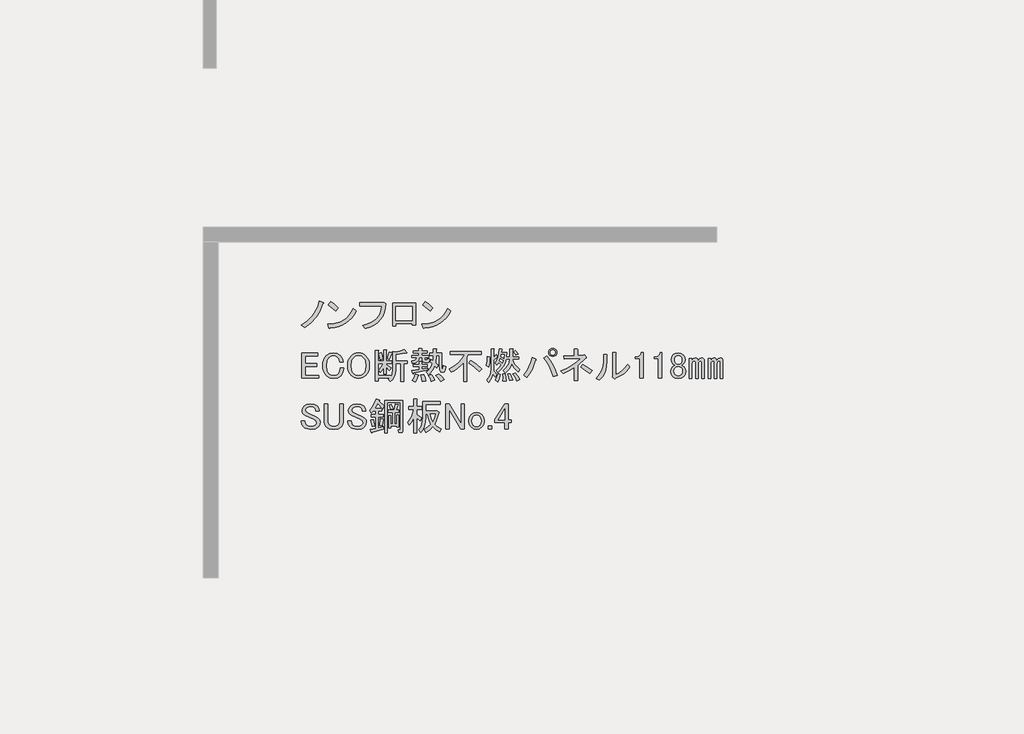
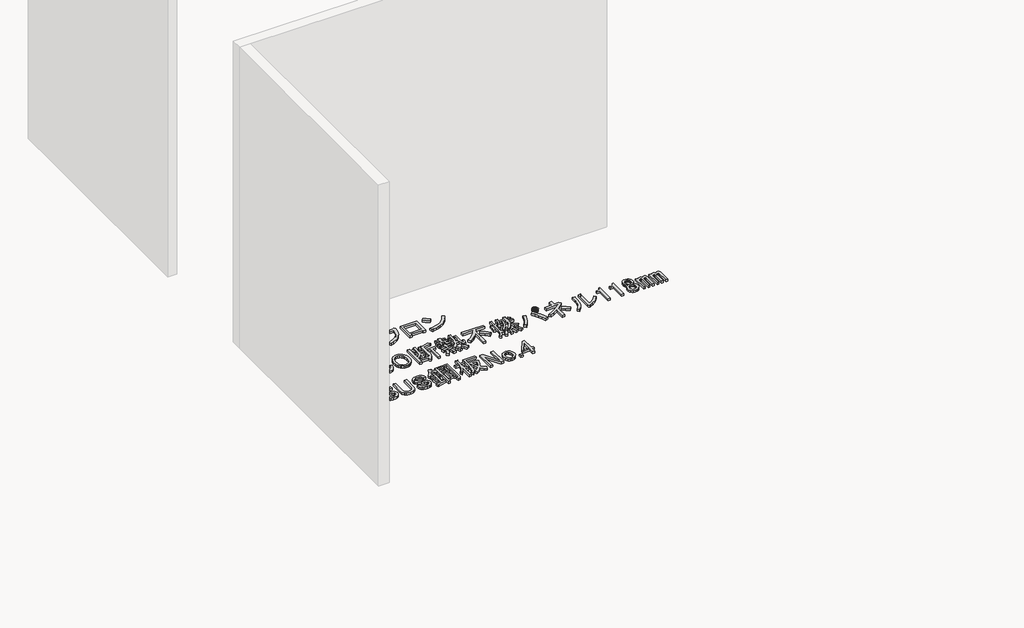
# One storey, part 61 of 117: 1 proxy.
"""IFC4 building model written with IfcOpenShell, lengths in millimetres."""

from ifc_helpers import new_model, si_unit, frame, origin, place, context, project, spatial, polyline, outline, extrude, element, save

model = new_model("IFC4")

# Units and contexts
model_context = context("Model", 3, world=origin())
ifc_project = project(units=[si_unit("LENGTHUNIT", "METRE", prefix="MILLI")], contexts=[model_context])

# Site, building, storey
site = spatial("IfcSite", under=ifc_project)
building = spatial("IfcBuilding", under=site)
storey = spatial("IfcBuildingStorey", under=building, Name="レベル 1", Elevation=500.0)

# Proxy
placement = place(None, origin())
element("IfcBuildingElementProxy", 1, Name="200㎜\u3000MS Pゴシック", ObjectType="200㎜\u3000MS Pゴシック", at=placement, inside=storey, context=model_context, shape_type="SweptSolid", body=[
    extrude(outline(polyline([(48940.1706985, -8603.5496882), (48914.5952502, -8663.3215225), (48886.146156, -8709.2998566), (48844.4782907, -8754.7034615), (48795.3389462, -8792.060858), (48767.7519457, -8770.2211493), (48815.4544673, -8739.7605029), (48855.1107805, -8701.2536481), (48872.4963381, -8677.3305462), (48887.8703435, -8649.2406577), (48901.2327969, -8616.9839827), (48912.5836981, -8580.5605212), (48943.6190736, -8594.3540214), (48946.7800841, -8598.9518548), (48940.1706985, -8603.5496882)])), frame((0.0, 0.0, 500.0), z_axis=(0.0, 0.0, 1.0), x_axis=(1.0, 0.0, 0.0)), (0.0, 0.0, 1.0), 25.0),
    extrude(outline(polyline([(49039.8977052, -8658.7236891), (48981.2753292, -8611.5958967), (49000.8161212, -8587.4572713), (49028.1157571, -8607.2854279), (49061.7374138, -8636.8839804), (49039.8977052, -8658.7236891)])), frame((0.0, 0.0, 500.0), z_axis=(0.0, 0.0, 1.0), x_axis=(1.0, 0.0, 0.0)), (0.0, 0.0, 1.0), 25.0),
    extrude(outline(polyline([(49201.9713328, -8658.7236891), (49185.447869, -8688.465924), (49166.3381239, -8714.4724192), (49144.6420975, -8736.7431748), (49120.3597898, -8755.2781907), (49093.4912008, -8770.077467), (49064.0363306, -8781.1410036), (49031.995179, -8788.4688006), (48997.3677461, -8792.060858), (48991.6204544, -8800.1070664), (48985.8731626, -8794.3597747), (48976.6774958, -8764.4738575), (49012.5082679, -8761.7977748), (49045.2857912, -8755.4937141), (49075.0100658, -8745.5616756), (49101.6810916, -8732.0016591), (49125.2988687, -8714.8136646), (49145.863397, -8693.9976923), (49163.3746766, -8669.553742), (49177.8327074, -8641.4818138), (49201.9713328, -8658.7236891)])), frame((0.0, 0.0, 500.0), z_axis=(0.0, 0.0, 1.0), x_axis=(1.0, 0.0, 0.0)), (0.0, 0.0, 1.0), 25.0),
    extrude(outline(polyline([(49252.7314136, -8773.6695243), (49286.514713, -8763.9889298), (49316.0234641, -8751.6142922), (49341.257667, -8736.5456116), (49362.2173217, -8718.782888), (49378.902428, -8698.3261214), (49391.3129862, -8675.1753118), (49399.4489961, -8649.3304591), (49403.3104577, -8620.7915635), (49230.8917049, -8620.7915635), (49230.8917049, -8595.5034798), (49405.6093744, -8595.5034798), (49421.7017914, -8592.0551047), (49434.3458332, -8603.5496882), (49430.825617, -8640.0449909), (49422.5638851, -8673.0919185), (49409.5606375, -8702.6904711), (49391.8158742, -8728.8406486), (49369.3295952, -8751.542451), (49342.1018005, -8770.7958784), (49310.1324901, -8786.6009308), (49273.421664, -8798.9576081), (49252.7314136, -8773.6695243)])), frame((0.0, 0.0, 500.0), z_axis=(0.0, 0.0, 1.0), x_axis=(1.0, 0.0, 0.0)), (0.0, 0.0, 1.0), 25.0),
    extrude(outline(polyline([(49667.455987, -8772.520066), (49641.0184449, -8772.520066), (49641.0184449, -8759.8760241), (49513.4285679, -8759.8760241), (49513.4285679, -8778.2673577), (49486.9910258, -8778.2673577), (49486.9910258, -8598.9518548), (49667.455987, -8598.9518548), (49667.455987, -8772.520066)]), holes=[polyline([(49513.4285679, -8624.2399386), (49513.4285679, -8734.5879404), (49641.0184449, -8734.5879404), (49641.0184449, -8624.2399386), (49513.4285679, -8624.2399386)])]), frame((0.0, 0.0, 500.0), z_axis=(0.0, 0.0, 1.0), x_axis=(1.0, 0.0, 0.0)), (0.0, 0.0, 1.0), 25.0),
    extrude(outline(polyline([(49943.5099049, -8658.7236891), (49926.9864411, -8688.465924), (49907.876696, -8714.4724192), (49886.1806696, -8736.7431748), (49861.8983619, -8755.2781907), (49835.0297729, -8770.077467), (49805.5749026, -8781.1410036), (49773.5337511, -8788.4688006), (49738.9063182, -8792.060858), (49733.1590264, -8800.1070664), (49727.4117347, -8794.3597747), (49718.2160679, -8764.4738575), (49754.0468399, -8761.7977748), (49786.8243633, -8755.4937141), (49816.5486378, -8745.5616756), (49843.2196637, -8732.0016591), (49866.8374407, -8714.8136646), (49887.4019691, -8693.9976923), (49904.9132486, -8669.553742), (49919.3712795, -8641.4818138), (49943.5099049, -8658.7236891)])), frame((0.0, 0.0, 500.0), z_axis=(0.0, 0.0, 1.0), x_axis=(1.0, 0.0, 0.0)), (0.0, 0.0, 1.0), 25.0),
    extrude(outline(polyline([(49781.4362772, -8658.7236891), (49722.8139013, -8611.5958967), (49742.3546933, -8587.4572713), (49769.6543291, -8607.2854279), (49803.2759859, -8636.8839804), (49781.4362772, -8658.7236891)])), frame((0.0, 0.0, 500.0), z_axis=(0.0, 0.0, 1.0), x_axis=(1.0, 0.0, 0.0)), (0.0, 0.0, 1.0), 25.0),
    extrude(outline(polyline([(48773.4992375, -8992.0551047), (48899.9396562, -8992.0551047), (48899.9396562, -9013.8948134), (48799.9367796, -9013.8948134), (48799.9367796, -9074.816106), (48893.0429061, -9074.816106), (48893.0429061, -9096.6558147), (48799.9367796, -9096.6558147), (48799.9367796, -9166.7727742), (48905.686948, -9166.7727742), (48905.686948, -9188.6124829), (48773.4992375, -9188.6124829), (48773.4992375, -8992.0551047)])), frame((0.0, 0.0, 500.0), z_axis=(0.0, 0.0, 1.0), x_axis=(1.0, 0.0, 0.0)), (0.0, 0.0, 1.0), 25.0),
    extrude(outline(polyline([(48937.7798252, -9090.908523), (48939.5758538, -9066.985421), (48944.9639399, -9045.7922827), (48953.9440832, -9027.3291079), (48966.516284, -9011.5958967), (48991.5170031, -8995.2161152), (49022.8397432, -8989.756188), (49053.5877541, -8994.641386), (49076.8642858, -9009.29698), (49092.6693381, -9032.8608762), (49098.7039944, -9062.1720642), (49071.116994, -9062.1720642), (49066.231796, -9040.9070847), (49056.1740354, -9025.3893969), (49040.9437123, -9015.0442717), (49022.8397432, -9011.5958967), (49003.2989512, -9015.6190009), (48986.0570759, -9027.6883136), (48977.0050914, -9039.3984206), (48970.5393882, -9053.8384911), (48965.3668256, -9090.908523), (48970.5393882, -9127.9785548), (48977.0050914, -9142.4186254), (48986.0570759, -9154.1287323), (49002.7242221, -9165.3359513), (49022.8397432, -9169.0716909), (49043.242629, -9165.9106804), (49058.4729521, -9156.427649), (49070.5422648, -9136.8868571), (49074.5653691, -9110.449315), (49102.1523695, -9110.449315), (49095.8303486, -9145.2204301), (49088.7899162, -9159.3731361), (49079.1632025, -9171.3706076), (49068.3151893, -9179.9197041), (49055.3119417, -9186.0262016), (49022.8397432, -9190.9113996), (48991.5170031, -9185.4514724), (48966.516284, -9169.0716909), (48953.9440832, -9153.4103209), (48944.9639399, -9135.1626695), (48939.5758538, -9114.3287369), (48937.7798252, -9090.908523)])), frame((0.0, 0.0, 500.0), z_axis=(0.0, 0.0, 1.0), x_axis=(1.0, 0.0, 0.0)), (0.0, 0.0, 1.0), 25.0),
    extrude(outline(polyline([(49133.1417667, -9089.7590646), (49134.8659542, -9066.9135799), (49140.0385168, -9046.6543764), (49148.6594544, -9028.9814543), (49160.7287671, -9013.8948134), (49173.4446501, -9003.3341648), (49187.4536738, -8995.7908443), (49202.7558381, -8991.2648521), (49219.3511431, -8989.756188), (49235.946448, -8991.2648521), (49251.2486123, -8995.7908443), (49265.257636, -9003.3341648), (49277.973519, -9013.8948134), (49290.0428317, -9028.9814543), (49298.6637694, -9046.6543764), (49303.836332, -9066.9135799), (49305.5605195, -9089.7590646), (49303.836332, -9112.6045494), (49298.6637694, -9132.8637528), (49290.0428317, -9150.536675), (49277.973519, -9165.6233159), (49265.257636, -9176.1839645), (49251.2486123, -9183.7272849), (49235.946448, -9188.2532772), (49219.3511431, -9189.7619413), (49202.7558381, -9188.2532772), (49187.4536738, -9183.7272849), (49173.4446501, -9176.1839645), (49160.7287671, -9165.6233159), (49148.6594544, -9150.536675), (49140.0385168, -9132.8637528), (49134.8659542, -9112.6045494), (49133.1417667, -9089.7590646)]), holes=[polyline([(49219.3511431, -9011.5958967), (49198.6608927, -9015.9063655), (49180.2695591, -9028.837772), (49171.7204626, -9039.9731498), (49165.6139651, -9053.8384911), (49160.7287671, -9089.7590646), (49165.6139651, -9125.6796381), (49171.7204626, -9139.5449795), (49180.2695591, -9150.6803573), (49198.6608927, -9163.6117637), (49219.3511431, -9167.9222326), (49240.0413934, -9163.6117637), (49258.432727, -9150.6803573), (49266.9818235, -9139.5449795), (49273.088321, -9125.6796381), (49277.973519, -9089.7590646), (49273.088321, -9053.8384911), (49266.9818235, -9039.9731498), (49258.432727, -9028.837772), (49240.0413934, -9015.9063655), (49219.3511431, -9011.5958967)])]), frame((0.0, 0.0, 500.0), z_axis=(0.0, 0.0, 1.0), x_axis=(1.0, 0.0, 0.0)), (0.0, 0.0, 1.0), 25.0),
    extrude(outline(polyline([(49444.3691101, -9035.7345221), (49461.6109854, -8982.8594379), (49482.3012357, -8988.6067296), (49484.0254232, -8991.7677401), (49480.002319, -8994.3540214), (49462.7604437, -9042.6312722), (49444.3691101, -9035.7345221)])), frame((0.0, 0.0, 500.0), z_axis=(0.0, 0.0, 1.0), x_axis=(1.0, 0.0, 0.0)), (0.0, 0.0, 1.0), 25.0),
    extrude(outline(polyline([(49598.3965292, -8987.4572713), (49596.6723417, -8992.0551047), (49589.2008624, -8989.756188), (49512.1871528, -9002.4002299), (49512.1871528, -9051.826939), (49604.143821, -9051.826939), (49604.143821, -9073.6666477), (49573.1084455, -9073.6666477), (49573.1084455, -9213.9005666), (49550.1192785, -9213.9005666), (49550.1192785, -9073.6666477), (49512.1871528, -9073.6666477), (49512.1871528, -9123.0933568), (49509.6008716, -9150.8958807), (49501.8420277, -9175.6810764), (49488.9106212, -9197.448944), (49470.8066522, -9216.1994833), (49453.5647769, -9196.6586914), (49463.9099021, -9187.4630245), (49374.2521506, -9187.4630245), (49374.2521506, -9209.3027332), (49351.2629836, -9209.3027332), (49351.2629836, -8970.215396), (49373.1026922, -8970.215396), (49377.9878902, -8972.5143127), (49374.2521506, -8977.1121461), (49374.2521506, -9052.9763974), (49416.7821096, -9052.9763974), (49416.7821096, -8965.6175626), (49435.1734433, -8965.6175626), (49440.0586413, -8967.9164793), (49436.3229016, -8972.5143127), (49436.3229016, -9052.9763974), (49480.002319, -9052.9763974), (49480.002319, -9071.367731), (49436.3229016, -9071.367731), (49436.3229016, -9080.5633978), (49476.5539439, -9107.0009399), (49462.7604437, -9128.8406486), (49436.3229016, -9102.4031065), (49436.3229016, -9155.2781907), (49416.7821096, -9155.2781907), (49416.7821096, -9107.0009399), (49403.5633386, -9126.8290965), (49389.1951092, -9142.6341488), (49376.5510673, -9124.2428152), (49398.390776, -9100.1041898), (49415.6326513, -9071.367731), (49374.2521506, -9071.367731), (49374.2521506, -9165.6233159), (49471.9561105, -9165.6233159), (49471.9561105, -9179.4168161), (49484.887517, -9155.2781907), (49489.1979858, -9121.9438985), (49489.1979858, -8977.1121461), (49511.0376945, -8982.8594379), (49547.2456326, -8975.3879586), (49577.7062789, -8962.1691875), (49598.3965292, -8987.4572713)])), frame((0.0, 0.0, 500.0), z_axis=(0.0, 0.0, 1.0), x_axis=(1.0, 0.0, 0.0)), (0.0, 0.0, 1.0), 25.0),
    extrude(outline(polyline([(49390.3445675, -9043.7807305), (49377.7005257, -8993.2045631), (49397.2413176, -8986.3078129), (49405.0001615, -9010.4464383), (49409.8853595, -9036.8839804), (49390.3445675, -9043.7807305)])), frame((0.0, 0.0, 500.0), z_axis=(0.0, 0.0, 1.0), x_axis=(1.0, 0.0, 0.0)), (0.0, 0.0, 1.0), 25.0),
    extrude(outline(polyline([(49734.0326148, -9159.8760241), (49744.0903754, -9187.17566), (49748.9755734, -9209.3027332), (49720.2391146, -9215.050025), (49717.6528333, -9193.4976809), (49709.8939894, -9163.3243992), (49734.0326148, -9159.8760241)])), frame((0.0, 0.0, 500.0), z_axis=(0.0, 0.0, 1.0), x_axis=(1.0, 0.0, 0.0)), (0.0, 0.0, 1.0), 25.0),
    extrude(outline(polyline([(49790.356074, -9212.7511083), (49782.022501, -9188.0377537), (49768.5163654, -9166.7727742), (49789.2066157, -9158.7265657), (49806.1611264, -9180.2789098), (49817.9430745, -9203.5554415), (49790.356074, -9212.7511083)])), frame((0.0, 0.0, 500.0), z_axis=(0.0, 0.0, 1.0), x_axis=(1.0, 0.0, 0.0)), (0.0, 0.0, 1.0), 25.0),
    extrude(outline(polyline([(49689.2037391, -9164.4738575), (49692.6521141, -9169.3590555), (49686.9048224, -9172.520066), (49677.1344264, -9198.0955143), (49666.214572, -9217.3489417), (49643.225405, -9205.8543582), (49655.8694469, -9182.290462), (49666.214572, -9155.2781907), (49689.2037391, -9164.4738575)])), frame((0.0, 0.0, 500.0), z_axis=(0.0, 0.0, 1.0), x_axis=(1.0, 0.0, 0.0)), (0.0, 0.0, 1.0), 25.0),
    extrude(outline(polyline([(49721.3885729, -9027.6883136), (49696.1004892, -9027.6883136), (49691.5026558, -9045.1457123), (49681.1575306, -9058.4363245), (49665.0651137, -9067.5601502), (49643.225405, -9072.5171893), (49638.6275716, -9052.9763974), (49663.9156553, -9044.3554597), (49671.3871346, -9037.0276627), (49675.4102388, -9027.6883136), (49639.7770299, -9027.6883136), (49639.7770299, -9009.29698), (49693.8015725, -9009.29698), (49693.8015725, -8992.0551047), (49650.1221551, -8992.0551047), (49650.1221551, -8973.6637711), (49693.8015725, -8973.6637711), (49693.8015725, -8955.2724374), (49715.6412812, -8955.2724374), (49720.5264792, -8957.5713541), (49716.7907395, -8962.1691875), (49716.7907395, -8973.6637711), (49759.3206985, -8973.6637711), (49759.3206985, -8992.0551047), (49716.7907395, -8992.0551047), (49716.7907395, -9009.29698), (49769.6658237, -9009.29698), (49769.6658237, -9027.6883136), (49740.9293649, -9027.6883136), (49740.9293649, -9040.3323555), (49742.3661878, -9045.5049181), (49746.6766567, -9047.2291056), (49757.0217818, -9047.2291056), (49760.7575215, -9044.0680951), (49760.4701569, -9034.5850637), (49780.0109489, -9036.8839804), (49777.137303, -9058.4363245), (49771.8210581, -9063.8244106), (49763.9185319, -9065.6204392), (49739.7799066, -9065.6204392), (49725.9864063, -9060.7352412), (49721.3885729, -9046.0796472), (49721.3885729, -9027.6883136)])), frame((0.0, 0.0, 500.0), z_axis=(0.0, 0.0, 1.0), x_axis=(1.0, 0.0, 0.0)), (0.0, 0.0, 1.0), 25.0),
    extrude(outline(polyline([(49852.4268251, -9010.4464383), (49830.5871164, -9010.4464383), (49825.989283, -9067.9193559), (49845.5300749, -9086.3106896), (49835.1849498, -9108.1503983), (49819.0925328, -9092.0579813), (49799.8391054, -9129.7027424), (49769.6658237, -9162.1749408), (49752.4239484, -9141.4846905), (49767.5105893, -9129.5590601), (49780.585678, -9114.4724192), (49791.6492147, -9096.2247679), (49800.7011992, -9074.816106), (49783.4593239, -9059.8731475), (49791.5055324, -9042.6312722), (49805.2990326, -9052.9763974), (49807.5979493, -9010.4464383), (49780.0109489, -9010.4464383), (49780.0109489, -8992.0551047), (49807.5979493, -8992.0551047), (49807.5979493, -8957.5713541), (49829.437658, -8957.5713541), (49834.322856, -8959.8702708), (49830.5871164, -8964.4681043), (49830.5871164, -8992.0551047), (49871.967617, -8992.0551047), (49871.967617, -9088.6096063), (49875.4159921, -9112.7482317), (49878.6488437, -9114.7597838), (49881.4506484, -9111.5987733), (49885.7611173, -9089.7590646), (49905.3019092, -9096.6558147), (49900.775917, -9123.4525626), (49892.945232, -9139.4731384), (49881.8098542, -9144.7175421), (49867.3697836, -9139.1857738), (49860.8322393, -9131.8579768), (49856.1625647, -9120.219711), (49852.4268251, -9084.0117729), (49852.4268251, -9010.4464383)])), frame((0.0, 0.0, 500.0), z_axis=(0.0, 0.0, 1.0), x_axis=(1.0, 0.0, 0.0)), (0.0, 0.0, 1.0), 25.0),
    extrude(outline(polyline([(49651.2716134, -9149.5308989), (49649.2600613, -9154.4160969), (49645.5243217, -9152.979274), (49639.7770299, -9128.8406486), (49694.9510308, -9120.7944401), (49694.9510308, -9097.8052731), (49651.2716134, -9097.8052731), (49651.2716134, -9079.4139395), (49694.9510308, -9079.4139395), (49694.9510308, -9056.4247724), (49713.3423645, -9056.4247724), (49718.2275625, -9058.7236891), (49714.4918228, -9063.3215225), (49714.4918228, -9079.4139395), (49759.3206985, -9079.4139395), (49759.3206985, -9097.8052731), (49714.4918228, -9097.8052731), (49714.4918228, -9117.3460651), (49765.0679903, -9108.1503983), (49765.0679903, -9124.2428152), (49651.2716134, -9149.5308989)])), frame((0.0, 0.0, 500.0), z_axis=(0.0, 0.0, 1.0), x_axis=(1.0, 0.0, 0.0)), (0.0, 0.0, 1.0), 25.0),
    extrude(outline(polyline([(49848.97845, -9154.1287323), (49873.6918046, -9175.3937119), (49892.6578674, -9200.1070664), (49866.2203253, -9215.050025), (49846.9668979, -9185.4514724), (49828.2881997, -9165.6233159), (49848.97845, -9154.1287323)])), frame((0.0, 0.0, 500.0), z_axis=(0.0, 0.0, 1.0), x_axis=(1.0, 0.0, 0.0)), (0.0, 0.0, 1.0), 25.0),
    extrude(outline(polyline([(50167.3784135, -9138.0363154), (50128.2968295, -9099.8168252), (50086.9163289, -9070.2182726), (50103.0087458, -9049.5280223), (50146.6881632, -9077.6897519), (50188.0686638, -9116.1966067), (50167.3784135, -9138.0363154)])), frame((0.0, 0.0, 500.0), z_axis=(0.0, 0.0, 1.0), x_axis=(1.0, 0.0, 0.0)), (0.0, 0.0, 1.0), 25.0),
    extrude(outline(polyline([(49940.9351182, -8977.1121461), (50182.3213721, -8977.1121461), (50182.3213721, -9002.4002299), (50082.3184955, -9002.4002299), (50071.9733703, -9026.5388553), (50071.9733703, -9212.7511083), (50045.5358282, -9212.7511083), (50045.5358282, -9065.6204392), (50024.7018956, -9088.8969709), (50001.2816816, -9109.2998566), (49975.2751864, -9126.8290965), (49946.6824099, -9141.4846905), (49930.589993, -9115.0471484), (49970.174465, -9094.6442626), (50003.8679629, -9069.0688143), (50031.6704868, -9038.3208034), (50053.5820367, -9002.4002299), (49940.9351182, -9002.4002299), (49940.9351182, -8977.1121461)])), frame((0.0, 0.0, 500.0), z_axis=(0.0, 0.0, 1.0), x_axis=(1.0, 0.0, 0.0)), (0.0, 0.0, 1.0), 25.0),
    extrude(outline(polyline([(50354.7401249, -9211.6016499), (50355.3148541, -9184.5893787), (50352.4412082, -9156.427649), (50371.9820002, -9155.2781907), (50378.3040211, -9181.4283682), (50378.8787503, -9209.3027332), (50354.7401249, -9211.6016499)])), frame((0.0, 0.0, 500.0), z_axis=(0.0, 0.0, 1.0), x_axis=(1.0, 0.0, 0.0)), (0.0, 0.0, 1.0), 25.0),
    extrude(outline(polyline([(50335.1993329, -9159.8760241), (50326.5783953, -9190.3366704), (50312.2101659, -9217.3489417), (50292.6693739, -9204.7048998), (50306.7502387, -9179.9915453), (50316.8079993, -9151.8298156), (50335.1993329, -9159.8760241)])), frame((0.0, 0.0, 500.0), z_axis=(0.0, 0.0, 1.0), x_axis=(1.0, 0.0, 0.0)), (0.0, 0.0, 1.0), 25.0),
    extrude(outline(polyline([(50250.1394149, -9021.9410219), (50254.7372483, -9024.2399386), (50250.1394149, -9028.837772), (50248.9899565, -9068.4940851), (50243.2426647, -9102.4031065), (50224.8513311, -9089.7590646), (50230.5986229, -9055.2753141), (50231.7480812, -9018.4926468), (50250.1394149, -9021.9410219)])), frame((0.0, 0.0, 500.0), z_axis=(0.0, 0.0, 1.0), x_axis=(1.0, 0.0, 0.0)), (0.0, 0.0, 1.0), 25.0),
    extrude(outline(polyline([(50301.8650407, -9003.5496882), (50311.0607075, -9020.7915635), (50312.4975305, -9026.8262199), (50307.6123325, -9026.5388553), (50281.1747904, -9047.2291056), (50281.1747904, -9131.1395653), (50294.9682906, -9143.4962426), (50306.4628741, -9159.8760241), (50293.8188322, -9180.5662744), (50275.4274986, -9155.2781907), (50263.6455505, -9191.1987642), (50242.0932064, -9220.7973168), (50227.1502478, -9202.4059831), (50242.2368887, -9183.6554438), (50253.0130607, -9163.0370346), (50259.478764, -9140.5507556), (50261.6339984, -9116.1966067), (50261.6339984, -8958.7208125), (50280.025332, -8958.7208125), (50284.91053, -8961.0197292), (50281.1747904, -8965.6175626), (50281.1747904, -9024.2399386), (50301.8650407, -9003.5496882)])), frame((0.0, 0.0, 500.0), z_axis=(0.0, 0.0, 1.0), x_axis=(1.0, 0.0, 0.0)), (0.0, 0.0, 1.0), 25.0),
    extrude(outline(polyline([(50452.4440848, -8972.5143127), (50474.2837935, -8996.6529381), (50457.0419182, -9008.1475216), (50450.4325327, -8996.6529381), (50437.5011262, -8982.8594379), (50452.4440848, -8972.5143127)])), frame((0.0, 0.0, 500.0), z_axis=(0.0, 0.0, 1.0), x_axis=(1.0, 0.0, 0.0)), (0.0, 0.0, 1.0), 25.0),
    extrude(outline(polyline([(50462.78921, -9209.3027332), (50449.5704389, -9181.1410036), (50432.9032928, -9156.427649), (50451.2946265, -9148.3814406), (50470.2606893, -9171.3706076), (50485.778377, -9198.9576081), (50462.78921, -9209.3027332)])), frame((0.0, 0.0, 500.0), z_axis=(0.0, 0.0, 1.0), x_axis=(1.0, 0.0, 0.0)), (0.0, 0.0, 1.0), 25.0),
    extrude(outline(polyline([(50413.3625008, -9154.1287323), (50431.7538345, -9203.5554415), (50407.6152091, -9208.1532749), (50393.8217089, -9157.5771074), (50413.3625008, -9154.1287323)])), frame((0.0, 0.0, 500.0), z_axis=(0.0, 0.0, 1.0), x_axis=(1.0, 0.0, 0.0)), (0.0, 0.0, 1.0), 25.0),
    extrude(outline(polyline([(50474.2837935, -9139.1857738), (50443.5357826, -9108.7251274), (50422.5581677, -9074.816106), (50414.1527535, -9096.9431793), (50402.7300111, -9116.1966067), (50388.2899405, -9132.5763882), (50370.8325418, -9146.0825239), (50357.0390416, -9127.6911902), (50377.8729742, -9108.7969686), (50393.2469797, -9087.7475125), (50403.161058, -9064.542822), (50407.6152091, -9039.1828971), (50378.8787503, -9039.1828971), (50370.904383, -9069.7872258), (50357.3264062, -9097.2305439), (50338.1448199, -9121.5128516), (50313.3596242, -9142.6341488), (50300.7155823, -9126.5417319), (50326.5783953, -9104.9893878), (50342.096083, -9084.0117729), (50320.2563743, -9064.4709809), (50306.4628741, -9085.1612312), (50292.6693739, -9070.2182726), (50305.0978923, -9051.1803687), (50314.7964472, -9026.2514907), (50321.7650384, -8995.4316386), (50326.0036661, -8958.7208125), (50346.6939164, -8961.0197292), (50350.1422915, -8963.6060105), (50344.3949997, -8966.767021), (50342.096083, -8985.1583546), (50385.7755004, -8985.1583546), (50382.3271253, -9020.7915635), (50407.6152091, -9020.7915635), (50407.6152091, -8958.7208125), (50429.4549178, -8958.7208125), (50434.3401158, -8961.0197292), (50430.6043761, -8965.6175626), (50430.6043761, -9020.7915635), (50480.0310853, -9020.7915635), (50480.0310853, -9039.1828971), (50430.6043761, -9039.1828971), (50437.1419205, -9060.9507647), (50448.7083452, -9081.4254916), (50465.3036501, -9100.6070778), (50486.9278354, -9118.4955234), (50474.2837935, -9139.1857738)]), holes=[polyline([(50350.1422915, -9069.0688143), (50357.0390416, -9049.5280223), (50331.7509579, -9033.4356054), (50326.0036661, -9050.6774807), (50350.1422915, -9069.0688143)]), polyline([(50339.7971663, -9003.5496882), (50336.3487913, -9019.6421052), (50361.636875, -9033.4356054), (50366.2347084, -9003.5496882), (50339.7971663, -9003.5496882)])]), frame((0.0, 0.0, 500.0), z_axis=(0.0, 0.0, 1.0), x_axis=(1.0, 0.0, 0.0)), (0.0, 0.0, 1.0), 25.0),
    extrude(outline(polyline([(50699.5776305, -9012.745355), (50726.230696, -9049.4561812), (50748.7169751, -9087.1727833), (50767.0364675, -9125.8951616), (50781.1891735, -9165.6233159), (50750.153798, -9175.968441), (50734.7079514, -9132.8637528), (50717.1068704, -9094.356898), (50697.3505549, -9060.4478766), (50675.4390051, -9031.1366887), (50699.5776305, -9012.745355)])), frame((0.0, 0.0, 500.0), z_axis=(0.0, 0.0, 1.0), x_axis=(1.0, 0.0, 0.0)), (0.0, 0.0, 1.0), 25.0),
    extrude(outline(polyline([(50612.2187958, -9039.1828971), (50616.2419, -9044.6428243), (50609.919879, -9049.5280223), (50597.9942486, -9084.9457078), (50582.9076078, -9118.782888), (50564.6599564, -9151.039563), (50543.2512946, -9181.7157328), (50516.8137525, -9164.4738575), (50540.018443, -9133.0074351), (50559.056347, -9099.5294606), (50573.9274644, -9064.039934), (50584.6317953, -9026.5388553), (50612.2187958, -9039.1828971)])), frame((0.0, 0.0, 500.0), z_axis=(0.0, 0.0, 1.0), x_axis=(1.0, 0.0, 0.0)), (0.0, 0.0, 1.0), 25.0),
    extrude(outline(polyline([(50745.5559646, -9018.4926468), (50732.9119227, -9016.1937301), (50722.5667975, -9009.29698), (50715.6700474, -8998.9518548), (50713.3711307, -8986.3078129), (50715.6700474, -8973.6637711), (50722.5667975, -8963.3186459), (50732.9119227, -8956.4218958), (50745.5559646, -8954.1229791), (50758.2000065, -8956.4218958), (50768.5451316, -8963.3186459), (50775.4418817, -8973.6637711), (50777.7407984, -8986.3078129), (50775.4418817, -8998.9518548), (50768.5451316, -9009.29698), (50758.2000065, -9016.1937301), (50745.5559646, -9018.4926468)]), holes=[polyline([(50745.5559646, -9006.9980633), (50753.8895376, -9005.5612403), (50760.4989232, -9001.2507715), (50764.809392, -8994.641386), (50766.2462149, -8986.3078129), (50764.809392, -8977.9742399), (50760.4989232, -8971.3648544), (50753.8895376, -8967.0543855), (50745.5559646, -8965.6175626), (50737.2223915, -8967.0543855), (50730.613006, -8971.3648544), (50726.3025372, -8977.9742399), (50724.8657143, -8986.3078129), (50726.3025372, -8994.641386), (50730.613006, -9001.2507715), (50737.2223915, -9005.5612403), (50745.5559646, -9006.9980633)])]), frame((0.0, 0.0, 500.0), z_axis=(0.0, 0.0, 1.0), x_axis=(1.0, 0.0, 0.0)), (0.0, 0.0, 1.0), 25.0),
    extrude(outline(polyline([(50989.2411352, -9008.1475216), (50996.1378853, -9005.8486049), (51008.7819272, -9023.0904802), (51009.9313856, -9029.1251366), (51004.1840938, -9031.1366887), (50940.9638844, -9087.4601479), (50940.9638844, -9208.1532749), (50914.5263423, -9208.1532749), (50914.5263423, -9105.8514816), (50874.2953, -9129.9901069), (50829.4664243, -9151.8298156), (50809.9256323, -9131.1395653), (50855.4729195, -9111.6706145), (50896.7097379, -9088.8969709), (50933.6360874, -9062.8186345), (50966.2519682, -9033.4356054), (50836.3631744, -9039.1828971), (50832.9147993, -9013.8948134), (50914.5263423, -9011.5958967), (50914.5263423, -8959.8702708), (50937.5155094, -8959.8702708), (50943.5501657, -8963.3186459), (50940.9638844, -8969.0659377), (50940.9638844, -9010.4464383), (50989.2411352, -9008.1475216)])), frame((0.0, 0.0, 500.0), z_axis=(0.0, 0.0, 1.0), x_axis=(1.0, 0.0, 0.0)), (0.0, 0.0, 1.0), 25.0),
    extrude(outline(polyline([(51035.2194693, -9151.8298156), (50998.1494375, -9122.5186277), (50965.1025098, -9101.2536481), (50982.3443851, -9079.4139395), (51021.1386045, -9102.6904711), (51054.7602613, -9128.8406486), (51035.2194693, -9151.8298156)])), frame((0.0, 0.0, 500.0), z_axis=(0.0, 0.0, 1.0), x_axis=(1.0, 0.0, 0.0)), (0.0, 0.0, 1.0), 25.0),
    extrude(outline(polyline([(51242.2139293, -9158.7265657), (51266.9991251, -9146.5135708), (51290.7785447, -9129.4153778), (51313.5521883, -9107.4319868), (51335.3200559, -9080.5633978), (51351.4124728, -9102.4031065), (51328.1359412, -9130.2056304), (51301.9857636, -9153.8413678), (51272.9619403, -9173.3103186), (51241.064471, -9188.6124829), (51231.8688042, -9193.2103163), (51213.4774705, -9179.4168161), (51215.7763872, -9173.6695243), (51215.7763872, -8988.6067296), (51239.9150126, -8988.6067296), (51245.6623044, -8992.0551047), (51242.2139293, -8997.8023965), (51242.2139293, -9158.7265657)])), frame((0.0, 0.0, 500.0), z_axis=(0.0, 0.0, 1.0), x_axis=(1.0, 0.0, 0.0)), (0.0, 0.0, 1.0), 25.0),
    extrude(outline(polyline([(51088.1865102, -9189.7619413), (51113.3309116, -9160.5225944), (51131.2911984, -9127.9785548), (51142.0673704, -9092.1298225), (51145.6594278, -9052.9763974), (51145.6594278, -9001.2507715), (51169.7980532, -9001.2507715), (51175.5453449, -9004.6991466), (51172.0969699, -9010.4464383), (51172.0969699, -9051.826939), (51168.2893891, -9097.5897496), (51156.8666467, -9138.32368), (51137.8287427, -9174.0287301), (51111.1756772, -9204.7048998), (51088.1865102, -9189.7619413)])), frame((0.0, 0.0, 500.0), z_axis=(0.0, 0.0, 1.0), x_axis=(1.0, 0.0, 0.0)), (0.0, 0.0, 1.0), 25.0),
    extrude(outline(polyline([(51430.7250991, -9011.5958967), (51438.7713075, -9000.6760423), (51442.2196826, -8988.6067296), (51456.0131828, -8988.6067296), (51456.0131828, -9187.4630245), (51429.5756407, -9187.4630245), (51429.5756407, -9034.5850637), (51395.0918902, -9034.5850637), (51395.0918902, -9020.7915635), (51405.4370153, -9020.7915635), (51419.8052447, -9018.4926468), (51430.7250991, -9011.5958967)])), frame((0.0, 0.0, 500.0), z_axis=(0.0, 0.0, 1.0), x_axis=(1.0, 0.0, 0.0)), (0.0, 0.0, 1.0), 25.0),
    extrude(outline(polyline([(51577.8557681, -9011.5958967), (51585.9019766, -9000.6760423), (51589.3503517, -8988.6067296), (51603.1438519, -8988.6067296), (51603.1438519, -9187.4630245), (51576.7063098, -9187.4630245), (51576.7063098, -9034.5850637), (51542.2225592, -9034.5850637), (51542.2225592, -9020.7915635), (51552.5676844, -9020.7915635), (51566.9359138, -9018.4926468), (51577.8557681, -9011.5958967)])), frame((0.0, 0.0, 500.0), z_axis=(0.0, 0.0, 1.0), x_axis=(1.0, 0.0, 0.0)), (0.0, 0.0, 1.0), 25.0),
    extrude(outline(polyline([(51677.8586448, -9044.9301889), (51681.881749, -9021.9410219), (51693.9510617, -9003.5496882), (51710.3308432, -8993.2045631), (51731.8831873, -8989.756188), (51753.722896, -8993.4919276), (51770.9647713, -9004.6991466), (51782.1719902, -9022.2283864), (51785.9077299, -9044.9301889), (51782.4593548, -9063.0341579), (51772.1142296, -9078.2644811), (51758.3207294, -9086.3106896), (51758.3207294, -9088.6096063), (51768.37849, -9092.6327105), (51777.8615214, -9100.1041898), (51788.2066466, -9116.1966067), (51791.6550216, -9136.8868571), (51787.6319174, -9158.1518366), (51775.5626047, -9175.968441), (51757.1712711, -9187.17566), (51731.8831873, -9190.9113996), (51706.5951036, -9187.17566), (51688.2037699, -9175.968441), (51676.1344572, -9158.1518366), (51672.111353, -9136.8868571), (51675.5597281, -9116.1966067), (51685.9048532, -9100.1041898), (51695.3878846, -9092.6327105), (51705.4456452, -9088.6096063), (51705.4456452, -9086.3106896), (51690.5026866, -9075.9655644), (51681.0196552, -9061.8846996), (51677.8586448, -9044.9301889)]), holes=[polyline([(51731.8831873, -9010.4464383), (51721.2506976, -9012.4579905), (51712.3423953, -9018.4926468), (51705.4456452, -9029.6998657), (51703.1467285, -9044.9301889), (51705.4456452, -9059.2984183), (51712.3423953, -9070.2182726), (51720.963333, -9076.252929), (51730.733729, -9078.2644811), (51742.8030417, -9076.5402936), (51751.4239793, -9071.367731), (51758.3207294, -9060.1605121), (51760.6196461, -9044.9301889), (51758.3207294, -9029.6998657), (51751.4239793, -9018.4926468), (51742.5156771, -9012.4579905), (51731.8831873, -9010.4464383)]), polyline([(51731.8831873, -9097.8052731), (51718.3770517, -9100.1041898), (51707.7445619, -9107.0009399), (51700.8478118, -9118.2081588), (51698.5488951, -9133.438482), (51701.1351764, -9148.9561698), (51708.8940203, -9161.0254825), (51719.2391454, -9167.9222326), (51731.8831873, -9170.2211493), (51744.5272292, -9167.9222326), (51754.8723544, -9161.0254825), (51762.6311982, -9148.9561698), (51765.2174795, -9133.438482), (51762.6311982, -9117.9207943), (51754.8723544, -9105.8514816), (51745.1019584, -9099.8168252), (51731.8831873, -9097.8052731)])]), frame((0.0, 0.0, 500.0), z_axis=(0.0, 0.0, 1.0), x_axis=(1.0, 0.0, 0.0)), (0.0, 0.0, 1.0), 25.0),
    extrude(outline(polyline([(51839.9322724, -9189.7619413), (51820.3914804, -9189.7619413), (51820.3914804, -9032.286147), (51839.9322724, -9032.286147), (51839.9322724, -9049.5280223), (51852.0015851, -9034.0103346), (51865.2203561, -9028.837772), (51874.416023, -9030.2745949), (51881.3127731, -9034.5850637), (51888.2095232, -9048.378564), (51901.1409296, -9033.72297), (51914.6470653, -9028.837772), (51922.9806383, -9030.2745949), (51929.5900239, -9034.5850637), (51934.7625864, -9043.2060014), (51936.486774, -9055.2753141), (51936.486774, -9189.7619413), (51916.945982, -9189.7619413), (51916.945982, -9065.6204392), (51914.3597007, -9056.1374078), (51906.6008568, -9052.9763974), (51896.2557317, -9057.5742308), (51890.2210753, -9066.1951684), (51888.2095232, -9075.9655644), (51888.2095232, -9189.7619413), (51868.6687312, -9189.7619413), (51868.6687312, -9065.6204392), (51866.0824499, -9056.1374078), (51858.323606, -9052.9763974), (51847.9784809, -9057.5742308), (51841.9438245, -9066.1951684), (51839.9322724, -9075.9655644), (51839.9322724, -9189.7619413)])), frame((0.0, 0.0, 500.0), z_axis=(0.0, 0.0, 1.0), x_axis=(1.0, 0.0, 0.0)), (0.0, 0.0, 1.0), 25.0),
    extrude(outline(polyline([(52061.7777343, -9028.837772), (52070.1113074, -9030.2745949), (52076.7206929, -9034.5850637), (52081.8932555, -9043.2060014), (52083.617443, -9055.2753141), (52083.617443, -9189.7619413), (52064.0766511, -9189.7619413), (52064.0766511, -9065.6204392), (52061.4903698, -9056.1374078), (52053.7315259, -9052.9763974), (52043.3864007, -9057.5742308), (52037.3517444, -9066.1951684), (52035.3401922, -9075.9655644), (52035.3401922, -9189.7619413), (52015.7994003, -9189.7619413), (52015.7994003, -9065.6204392), (52013.213119, -9056.1374078), (52005.4542751, -9052.9763974), (51995.1091499, -9057.5742308), (51989.0744936, -9066.1951684), (51987.0629415, -9075.9655644), (51987.0629415, -9189.7619413), (51967.5221495, -9189.7619413), (51967.5221495, -9032.286147), (51987.0629415, -9032.286147), (51987.0629415, -9049.5280223), (51999.1322542, -9034.0103346), (52012.3510252, -9028.837772), (52021.546692, -9030.2745949), (52028.4434421, -9034.5850637), (52035.3401922, -9048.378564), (52048.2715987, -9033.72297), (52061.7777343, -9028.837772)])), frame((0.0, 0.0, 500.0), z_axis=(0.0, 0.0, 1.0), x_axis=(1.0, 0.0, 0.0)), (0.0, 0.0, 1.0), 25.0),
    extrude(outline(polyline([(48775.7981542, -9443.7807305), (48779.8212584, -9423.3778448), (48791.8905711, -9405.8486049), (48812.2934569, -9393.7792922), (48841.3172803, -9389.756188), (48872.6400204, -9394.3540214), (48895.3418228, -9408.1475216), (48907.4111355, -9425.6767615), (48911.4342397, -9446.0796472), (48884.9966976, -9446.0796472), (48882.6977809, -9433.4356054), (48875.8010308, -9423.0904802), (48862.5822598, -9415.3316363), (48843.616197, -9412.745355), (48823.2133112, -9415.0442717), (48810.2819048, -9421.9410219), (48804.2472484, -9430.5619595), (48802.2356963, -9440.3323555), (48806.8335297, -9455.2753141), (48827.52378, -9466.7698976), (48887.2956143, -9493.2074397), (48904.5374896, -9504.7020232), (48914.020521, -9518.4955234), (48917.1815315, -9534.5879404), (48913.1584273, -9555.8529199), (48901.0891146, -9573.6695243), (48891.1031951, -9581.2128448), (48878.3873121, -9586.6009308), (48844.7656553, -9590.9113996), (48811.1439985, -9585.738837), (48797.5660217, -9579.2731338), (48786.1432794, -9570.2211493), (48774.9360604, -9551.8298156), (48771.2003208, -9526.5417319), (48797.6378629, -9526.5417319), (48799.9367796, -9544.3583363), (48806.8335297, -9556.427649), (48822.9259466, -9565.9106804), (48845.9151137, -9569.0716909), (48866.8927286, -9566.198045), (48881.5483226, -9557.5771074), (48888.4450727, -9548.3814406), (48890.7439894, -9539.1857738), (48889.0198019, -9529.7027424), (48883.8472393, -9521.9438985), (48865.4559057, -9510.449315), (48835.5699885, -9496.6558147), (48802.2356963, -9481.7128562), (48786.1432794, -9471.367731), (48778.3844355, -9459.2984183), (48775.7981542, -9443.7807305)])), frame((0.0, 0.0, 500.0), z_axis=(0.0, 0.0, 1.0), x_axis=(1.0, 0.0, 0.0)), (0.0, 0.0, 1.0), 25.0),
    extrude(outline(polyline([(48951.2054987, -9392.0551047), (48977.6430408, -9392.0551047), (48977.6430408, -9529.9901069), (48980.2293221, -9544.6457009), (48987.988166, -9556.427649), (49003.5058537, -9565.9106804), (49024.7708332, -9569.0716909), (49046.0358128, -9565.9106804), (49061.5535005, -9556.427649), (49069.3123444, -9544.6457009), (49071.8986257, -9529.9901069), (49071.8986257, -9392.0551047), (49098.3361678, -9392.0551047), (49098.3361678, -9531.1395653), (49094.3130635, -9554.1287323), (49082.2437508, -9572.520066), (49071.7549434, -9580.5662744), (49058.6798546, -9586.3135662), (49024.7708332, -9590.9113996), (48990.8618119, -9586.3135662), (48977.7867231, -9580.5662744), (48967.2979156, -9572.520066), (48955.2286029, -9554.1287323), (48951.2054987, -9531.1395653), (48951.2054987, -9392.0551047)])), frame((0.0, 0.0, 500.0), z_axis=(0.0, 0.0, 1.0), x_axis=(1.0, 0.0, 0.0)), (0.0, 0.0, 1.0), 25.0),
    extrude(outline(polyline([(49140.6822135, -9443.7807305), (49144.7053177, -9423.3778448), (49156.7746304, -9405.8486049), (49177.1775161, -9393.7792922), (49206.2013395, -9389.756188), (49237.5240796, -9394.3540214), (49260.2258821, -9408.1475216), (49272.2951948, -9425.6767615), (49276.318299, -9446.0796472), (49249.8807569, -9446.0796472), (49247.5818402, -9433.4356054), (49240.6850901, -9423.0904802), (49227.466319, -9415.3316363), (49208.5002562, -9412.745355), (49188.0973705, -9415.0442717), (49175.165964, -9421.9410219), (49169.1313077, -9430.5619595), (49167.1197556, -9440.3323555), (49171.717589, -9455.2753141), (49192.4078393, -9466.7698976), (49252.1796736, -9493.2074397), (49269.4215489, -9504.7020232), (49278.9045803, -9518.4955234), (49282.0655908, -9534.5879404), (49278.0424865, -9555.8529199), (49265.9731738, -9573.6695243), (49255.9872544, -9581.2128448), (49243.2713714, -9586.6009308), (49209.6497146, -9590.9113996), (49176.0280578, -9585.738837), (49162.450081, -9579.2731338), (49151.0273386, -9570.2211493), (49139.8201197, -9551.8298156), (49136.0843801, -9526.5417319), (49162.5219222, -9526.5417319), (49164.8208389, -9544.3583363), (49171.717589, -9556.427649), (49187.8100059, -9565.9106804), (49210.7991729, -9569.0716909), (49231.7767879, -9566.198045), (49246.4323819, -9557.5771074), (49253.329132, -9548.3814406), (49255.6280487, -9539.1857738), (49253.9038611, -9529.7027424), (49248.7312986, -9521.9438985), (49230.3399649, -9510.449315), (49200.4540478, -9496.6558147), (49167.1197556, -9481.7128562), (49151.0273386, -9471.367731), (49143.2684948, -9459.2984183), (49140.6822135, -9443.7807305)])), frame((0.0, 0.0, 500.0), z_axis=(0.0, 0.0, 1.0), x_axis=(1.0, 0.0, 0.0)), (0.0, 0.0, 1.0), 25.0),
    extrude(outline(polyline([(49478.1631856, -9394.3540214), (49485.3473003, -9409.5843446), (49490.8072275, -9429.9872303), (49473.5653522, -9435.7345221), (49462.0707687, -9398.9518548), (49478.1631856, -9394.3540214)])), frame((0.0, 0.0, 500.0), z_axis=(0.0, 0.0, 1.0), x_axis=(1.0, 0.0, 0.0)), (0.0, 0.0, 1.0), 25.0),
    extrude(outline(polyline([(49531.0382698, -9395.5034798), (49533.6245511, -9398.9518548), (49527.5898948, -9402.4002299), (49514.9458529, -9440.3323555), (49535.6361032, -9440.3323555), (49535.6361032, -9458.7236891), (49504.6007277, -9458.7236891), (49504.6007277, -9547.2319822), (49519.5436863, -9547.2319822), (49519.5436863, -9479.4139395), (49535.6361032, -9479.4139395), (49535.6361032, -9573.6695243), (49519.5436863, -9573.6695243), (49519.5436863, -9565.6233159), (49473.5653522, -9565.6233159), (49473.5653522, -9578.2673577), (49457.4729353, -9578.2673577), (49457.4729353, -9481.7128562), (49473.5653522, -9481.7128562), (49473.5653522, -9547.2319822), (49488.5083108, -9547.2319822), (49488.5083108, -9458.7236891), (49452.8751019, -9458.7236891), (49452.8751019, -9440.3323555), (49498.853436, -9440.3323555), (49509.1985611, -9390.9056463), (49531.0382698, -9395.5034798)])), frame((0.0, 0.0, 500.0), z_axis=(0.0, 0.0, 1.0), x_axis=(1.0, 0.0, 0.0)), (0.0, 0.0, 1.0), 25.0),
    extrude(outline(polyline([(49425.2881014, -9362.1691875), (49565.5220204, -9362.1691875), (49565.5220204, -9602.4059831), (49561.7862807, -9613.6132021), (49550.5790618, -9617.3489417), (49534.4866449, -9617.3489417), (49529.8888115, -9595.509233), (49541.383395, -9595.509233), (49544.83177, -9594.3597747), (49545.9812284, -9590.9113996), (49545.9812284, -9380.5605212), (49444.8288934, -9380.5605212), (49444.8288934, -9619.6478584), (49425.2881014, -9619.6478584), (49425.2881014, -9362.1691875)])), frame((0.0, 0.0, 500.0), z_axis=(0.0, 0.0, 1.0), x_axis=(1.0, 0.0, 0.0)), (0.0, 0.0, 1.0), 25.0),
    extrude(outline(polyline([(49413.7935179, -9510.449315), (49416.3797992, -9513.6103254), (49412.6440596, -9516.1966067), (49404.5978511, -9563.3243992), (49386.2065175, -9561.0254825), (49391.9538092, -9507.0009399), (49413.7935179, -9510.449315)])), frame((0.0, 0.0, 500.0), z_axis=(0.0, 0.0, 1.0), x_axis=(1.0, 0.0, 0.0)), (0.0, 0.0, 1.0), 25.0),
    extrude(outline(polyline([(49336.7798083, -9511.5987733), (49348.2743918, -9563.3243992), (49327.5841415, -9569.0716909), (49316.089558, -9517.3460651), (49336.7798083, -9511.5987733)])), frame((0.0, 0.0, 500.0), z_axis=(0.0, 0.0, 1.0), x_axis=(1.0, 0.0, 0.0)), (0.0, 0.0, 1.0), 25.0),
    extrude(outline(polyline([(49410.3451429, -9431.1366887), (49368.9646422, -9387.4572713), (49347.1249335, -9426.5388553), (49402.2989344, -9426.5388553), (49402.2989344, -9444.9301889), (49375.8613923, -9444.9301889), (49375.8613923, -9473.6666477), (49413.7935179, -9473.6666477), (49413.7935179, -9492.0579813), (49375.8613923, -9492.0579813), (49375.8613923, -9579.4168161), (49414.9429763, -9569.0716909), (49417.241893, -9588.6124829), (49325.2852248, -9613.9005666), (49322.9863081, -9619.6478584), (49318.3884747, -9616.1994833), (49311.4917246, -9593.2103163), (49356.3206003, -9584.0146495), (49356.3206003, -9492.0579813), (49318.3884747, -9492.0579813), (49318.3884747, -9473.6666477), (49356.3206003, -9473.6666477), (49356.3206003, -9444.9301889), (49334.4808916, -9444.9301889), (49319.537933, -9463.3215225), (49306.8938912, -9442.6312722), (49335.0556208, -9404.9865112), (49359.7689754, -9354.1229791), (49381.6086841, -9359.8702708), (49385.0570591, -9363.6060105), (49379.3097674, -9365.6175626), (49378.160309, -9369.0659377), (49422.9891847, -9406.9980633), (49410.3451429, -9431.1366887)])), frame((0.0, 0.0, 500.0), z_axis=(0.0, 0.0, 1.0), x_axis=(1.0, 0.0, 0.0)), (0.0, 0.0, 1.0), 25.0),
    extrude(outline(polyline([(49736.7913148, -9590.9113996), (49765.5277736, -9573.6695243), (49787.3674823, -9551.8298156), (49769.5508779, -9509.8745858), (49759.7804819, -9469.0688143), (49747.13644, -9469.0688143), (49747.13644, -9493.2074397), (49744.693841, -9534.9471461), (49737.366044, -9569.3590555), (49725.153049, -9596.4431679), (49708.054856, -9616.1994833), (49694.2613558, -9593.2103163), (49707.3364446, -9575.8247587), (49716.6757937, -9553.5540032), (49722.2794031, -9526.3980496), (49724.147273, -9494.356898), (49724.147273, -9373.6637711), (49860.9328169, -9373.6637711), (49860.9328169, -9395.5034798), (49747.13644, -9395.5034798), (49747.13644, -9447.2291056), (49826.4490663, -9447.2291056), (49832.1963581, -9441.4818138), (49851.73715, -9455.2753141), (49853.173973, -9459.0110537), (49848.288775, -9463.3215225), (49835.9320977, -9509.8745858), (49817.2533995, -9550.6803573), (49836.2194623, -9569.0716909), (49867.829567, -9587.4630245), (49858.6339002, -9611.6016499), (49830.7595351, -9595.509233), (49802.3104409, -9570.2211493), (49777.8844509, -9594.6471392), (49745.9869817, -9615.050025), (49736.7913148, -9590.9113996)]), holes=[polyline([(49781.6201906, -9469.0688143), (49789.666399, -9502.1157419), (49802.3104409, -9529.9901069), (49814.9544828, -9503.8399294), (49823.0006912, -9469.0688143), (49781.6201906, -9469.0688143)])]), frame((0.0, 0.0, 500.0), z_axis=(0.0, 0.0, 1.0), x_axis=(1.0, 0.0, 0.0)), (0.0, 0.0, 1.0), 25.0),
    extrude(outline(polyline([(49654.0303135, -9619.6478584), (49654.0303135, -9500.1041898), (49636.213709, -9534.3005758), (49617.2476462, -9556.427649), (49605.7530627, -9535.7373987), (49622.994938, -9513.0355963), (49636.7884382, -9488.6096063), (49647.1335634, -9462.4594288), (49654.0303135, -9434.5850637), (49612.6498128, -9434.5850637), (49612.6498128, -9412.745355), (49654.0303135, -9412.745355), (49654.0303135, -9352.9735207), (49675.8700222, -9352.9735207), (49680.7552202, -9355.2724374), (49677.0194805, -9359.8702708), (49677.0194805, -9412.745355), (49714.9516061, -9412.745355), (49714.9516061, -9434.5850637), (49677.0194805, -9434.5850637), (49677.0194805, -9474.816106), (49714.9516061, -9501.2536481), (49704.606481, -9524.2428152), (49677.0194805, -9501.2536481), (49677.0194805, -9619.6478584), (49654.0303135, -9619.6478584)])), frame((0.0, 0.0, 500.0), z_axis=(0.0, 0.0, 1.0), x_axis=(1.0, 0.0, 0.0)), (0.0, 0.0, 1.0), 25.0),
    extrude(outline(polyline([(49904.6122342, -9392.0551047), (49933.348693, -9392.0551047), (50025.3053612, -9547.2319822), (50025.3053612, -9392.0551047), (50051.7429033, -9392.0551047), (50051.7429033, -9588.6124829), (50023.0064445, -9588.6124829), (49931.0497763, -9433.4356054), (49931.0497763, -9588.6124829), (49904.6122342, -9588.6124829), (49904.6122342, -9392.0551047)])), frame((0.0, 0.0, 500.0), z_axis=(0.0, 0.0, 1.0), x_axis=(1.0, 0.0, 0.0)), (0.0, 0.0, 1.0), 25.0),
    extrude(outline(polyline([(50084.8932822, -9524.2428152), (50089.7784802, -9496.9431793), (50104.4340742, -9474.816106), (50123.6875015, -9461.8846996), (50146.9640332, -9457.5742308), (50170.2405648, -9461.8846996), (50189.4939922, -9474.816106), (50204.1495862, -9496.9431793), (50209.0347842, -9524.2428152), (50204.1495862, -9551.542451), (50189.4939922, -9573.6695243), (50170.2405648, -9586.6009308), (50146.9640332, -9590.9113996), (50123.6875015, -9586.6009308), (50104.4340742, -9573.6695243), (50089.7784802, -9551.542451), (50084.8932822, -9524.2428152)]), holes=[polyline([(50146.9640332, -9478.2644811), (50134.3199913, -9480.5633978), (50123.9748661, -9487.4601479), (50113.629741, -9503.5525648), (50110.1813659, -9524.2428152), (50113.3423764, -9544.6457009), (50122.8254078, -9559.8760241), (50134.0326267, -9567.634868), (50146.9640332, -9570.2211493), (50159.8954396, -9567.634868), (50171.1026586, -9559.8760241), (50180.58569, -9544.6457009), (50183.7467004, -9524.2428152), (50180.2983254, -9503.5525648), (50169.9532002, -9487.4601479), (50159.6080751, -9480.5633978), (50146.9640332, -9478.2644811)])]), frame((0.0, 0.0, 500.0), z_axis=(0.0, 0.0, 1.0), x_axis=(1.0, 0.0, 0.0)), (0.0, 0.0, 1.0), 25.0),
    extrude(outline(polyline([(50239.564398, -9563.3243992), (50266.0019401, -9563.3243992), (50266.0019401, -9588.6124829), (50239.564398, -9588.6124829), (50239.564398, -9563.3243992)])), frame((0.0, 0.0, 500.0), z_axis=(0.0, 0.0, 1.0), x_axis=(1.0, 0.0, 0.0)), (0.0, 0.0, 1.0), 25.0),
    extrude(outline(polyline([(50368.5336251, -9389.756188), (50394.9711672, -9389.756188), (50394.9711672, -9516.1966067), (50419.1097926, -9516.1966067), (50419.1097926, -9538.0363154), (50394.9711672, -9538.0363154), (50394.9711672, -9588.6124829), (50368.5336251, -9588.6124829), (50368.5336251, -9538.0363154), (50291.5199155, -9538.0363154), (50291.5199155, -9515.0471484), (50368.5336251, -9389.756188)]), holes=[polyline([(50368.5336251, -9432.286147), (50316.8079993, -9516.1966067), (50368.5336251, -9516.1966067), (50368.5336251, -9432.286147)])]), frame((0.0, 0.0, 500.0), z_axis=(0.0, 0.0, 1.0), x_axis=(1.0, 0.0, 0.0)), (0.0, 0.0, 1.0), 25.0),
])

save(model, "model.ifc")
